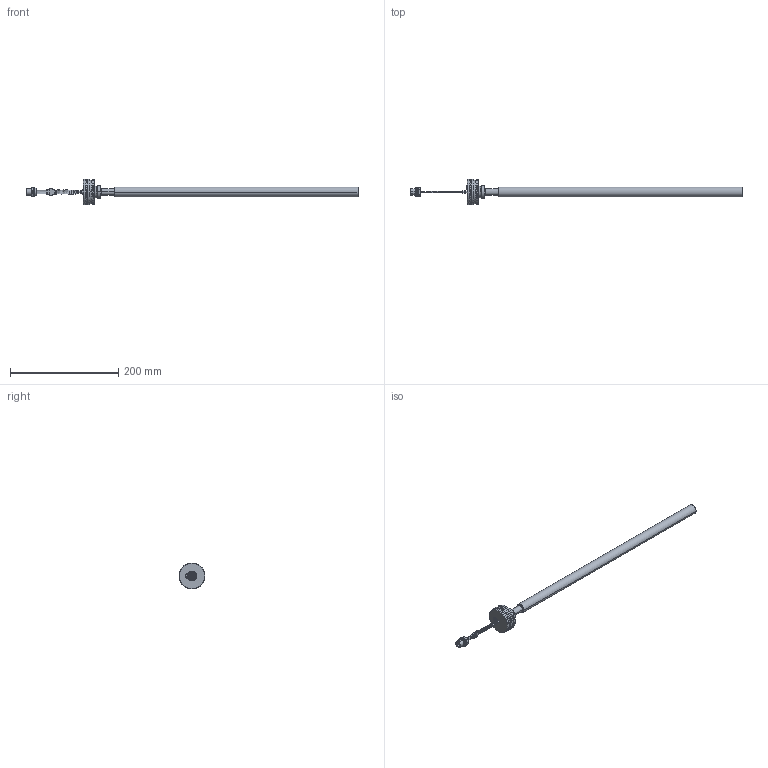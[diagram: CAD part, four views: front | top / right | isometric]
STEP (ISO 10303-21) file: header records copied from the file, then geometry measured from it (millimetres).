
FILE_DESCRIPTION((''),'2;1');
FILE_NAME('EDS-400-Z-LA_MIT_ROHR_ASM','2007-11-29T',('11000065'),(''),'PRO/ENGINEER BY PARAMETRIC TECHNOLOGY CORPORATION, 2007160','PRO/ENGINEER BY PARAMETRIC TECHNOLOGY CORPORATION, 2007160','');
FILE_SCHEMA(('AUTOMOTIVE_DESIGN { 1 2 10303 214 0 1 1 1 }'));
Length unit declared in the file: millimetre
Products named in the file (3): EDS-400-Z-LA; MESSROHR; EDS-400-Z-LA_MIT_ROHR_ASM
Assembly tree (2 placements, depth 2):
  EDS-400-Z-LA_MIT_ROHR_ASM
    EDS-400-Z-LA
    MESSROHR
Bounding box: 613.49 x 48 x 48 mm (x, y, z)
Volume: 129563.2 mm3; surface area: 76604.1 mm2
Topology: 3 solids, 4 shells, 572 faces, 1581 edges, 1002 vertices
Faces by surface type: plane 371, cylinder 101, cone 46, torus 46, bspline 8
Entity records: 21115 total; most frequent: CARTESIAN_POINT 5685, ORIENTED_EDGE 3150, DIRECTION 2959, EDGE_CURVE 1577, AXIS2_PLACEMENT_3D 1011, VERTEX_POINT 1002, VECTOR 937, LINE 937
